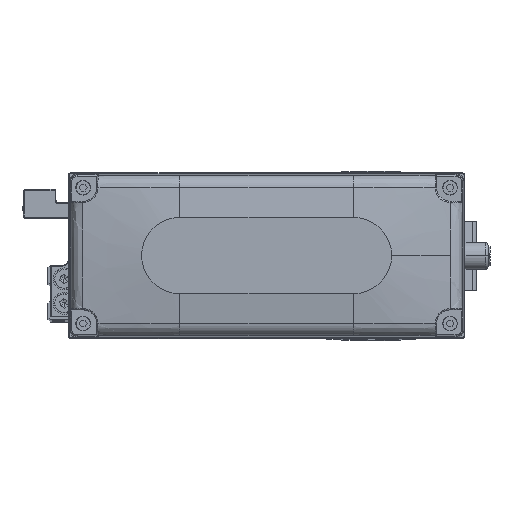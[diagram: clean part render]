
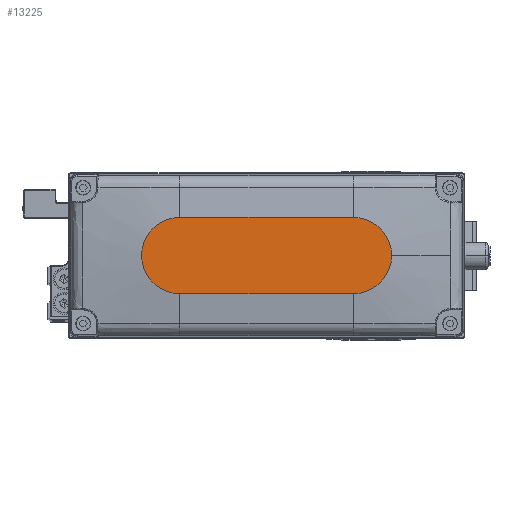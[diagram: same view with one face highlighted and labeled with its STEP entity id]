
A CAD part, top view. The second image highlights one B-rep face of the part: STEP entity #13225.
In plain terms, the highlighted planar face has unit normal (0, 0, 1).
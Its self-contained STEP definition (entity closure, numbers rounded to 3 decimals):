
#817 = CARTESIAN_POINT ( 'NONE',  ( 32., -14., 35. ) ) ;
#957 = CARTESIAN_POINT ( 'NONE',  ( -32., 14., 35. ) ) ;
#1790 = DIRECTION ( 'NONE',  ( 1., 0., 0. ) ) ;
#2011 = CARTESIAN_POINT ( 'NONE',  ( 46., 0., 35. ) ) ;
#2622 = AXIS2_PLACEMENT_3D ( 'NONE', #19255, #33305, #1790 ) ;
#4202 = EDGE_CURVE ( 'NONE', #30858, #45185, #16155, .T. ) ;
#4727 = ORIENTED_EDGE ( 'NONE', *, *, #20900, .T. ) ;
#5459 = ORIENTED_EDGE ( 'NONE', *, *, #16424, .T. ) ;
#6276 = DIRECTION ( 'NONE',  ( 0., 0., 1. ) ) ;
#7818 = VECTOR ( 'NONE', #44241, 1000. ) ;
#7825 = CARTESIAN_POINT ( 'NONE',  ( -32., -14., 35. ) ) ;
#9201 = CARTESIAN_POINT ( 'NONE',  ( -32., 0., 35. ) ) ;
#11724 = DIRECTION ( 'NONE',  ( 0., 0., 1. ) ) ;
#12768 = ORIENTED_EDGE ( 'NONE', *, *, #4202, .T. ) ;
#13225 = ADVANCED_FACE ( 'NONE', ( #15195 ), #29230, .T. ) ;
#13376 = ORIENTED_EDGE ( 'NONE', *, *, #17602, .T. ) ;
#15195 = FACE_OUTER_BOUND ( 'NONE', #17761, .T. ) ;
#15489 = ORIENTED_EDGE ( 'NONE', *, *, #32675, .T. ) ;
#15569 = CIRCLE ( 'NONE', #41314, 14. ) ;
#16155 = LINE ( 'NONE', #30190, #7818 ) ;
#16424 = EDGE_CURVE ( 'NONE', #37079, #23472, #22449, .T. ) ;
#17602 = EDGE_CURVE ( 'NONE', #33791, #37079, #39375, .T. ) ;
#17761 = EDGE_LOOP ( 'NONE', ( #12768, #15489, #13376, #5459, #4727 ) ) ;
#19255 = CARTESIAN_POINT ( 'NONE',  ( 32., 0., 35. ) ) ;
#20314 = DIRECTION ( 'NONE',  ( 1., 0., 0. ) ) ;
#20900 = EDGE_CURVE ( 'NONE', #23472, #30858, #15569, .T. ) ;
#21861 = DIRECTION ( 'NONE',  ( 1., 0., 0. ) ) ;
#22449 = CIRCLE ( 'NONE', #2622, 14. ) ;
#22754 = CARTESIAN_POINT ( 'NONE',  ( 32., 14., 35. ) ) ;
#23260 = DIRECTION ( 'NONE',  ( 0., 0., 1. ) ) ;
#23472 = VERTEX_POINT ( 'NONE', #2011 ) ;
#25084 = AXIS2_PLACEMENT_3D ( 'NONE', #43268, #11724, #25763 ) ;
#25369 = AXIS2_PLACEMENT_3D ( 'NONE', #9201, #23260, #37311 ) ;
#25763 = DIRECTION ( 'NONE',  ( 1., 0., 0. ) ) ;
#29230 = PLANE ( 'NONE',  #25084 ) ;
#30190 = CARTESIAN_POINT ( 'NONE',  ( -32., 14., 35. ) ) ;
#30858 = VERTEX_POINT ( 'NONE', #22754 ) ;
#32032 = CARTESIAN_POINT ( 'NONE',  ( -32., -14., 35. ) ) ;
#32675 = EDGE_CURVE ( 'NONE', #45185, #33791, #45232, .T. ) ;
#33305 = DIRECTION ( 'NONE',  ( 0., 0., 1. ) ) ;
#33791 = VERTEX_POINT ( 'NONE', #32032 ) ;
#37079 = VERTEX_POINT ( 'NONE', #817 ) ;
#37311 = DIRECTION ( 'NONE',  ( 1., 0., 0. ) ) ;
#37826 = CARTESIAN_POINT ( 'NONE',  ( 32., 0., 35. ) ) ;
#38183 = VECTOR ( 'NONE', #21861, 1000. ) ;
#39375 = LINE ( 'NONE', #7825, #38183 ) ;
#41314 = AXIS2_PLACEMENT_3D ( 'NONE', #37826, #6276, #20314 ) ;
#43268 = CARTESIAN_POINT ( 'NONE',  ( 0., 0., 35. ) ) ;
#44241 = DIRECTION ( 'NONE',  ( -1., 0., 0. ) ) ;
#45185 = VERTEX_POINT ( 'NONE', #957 ) ;
#45232 = CIRCLE ( 'NONE', #25369, 14. ) ;
